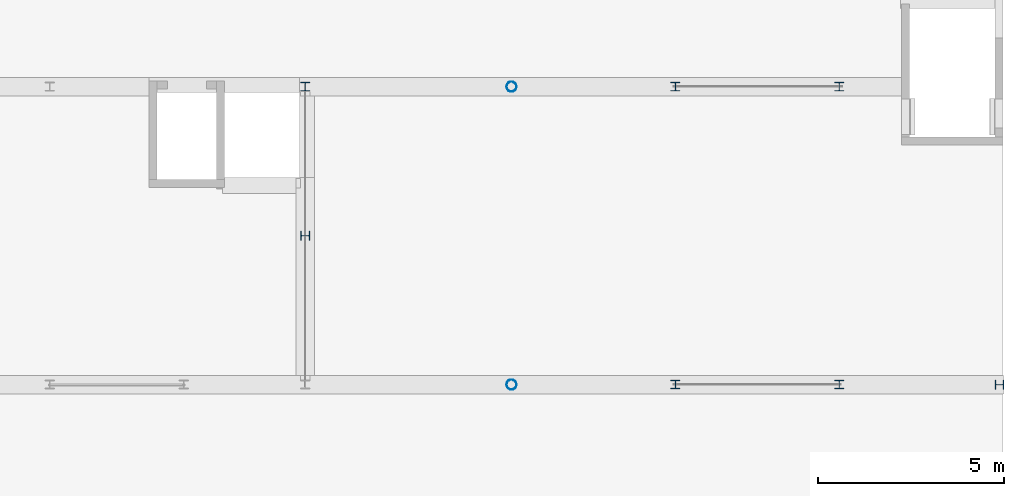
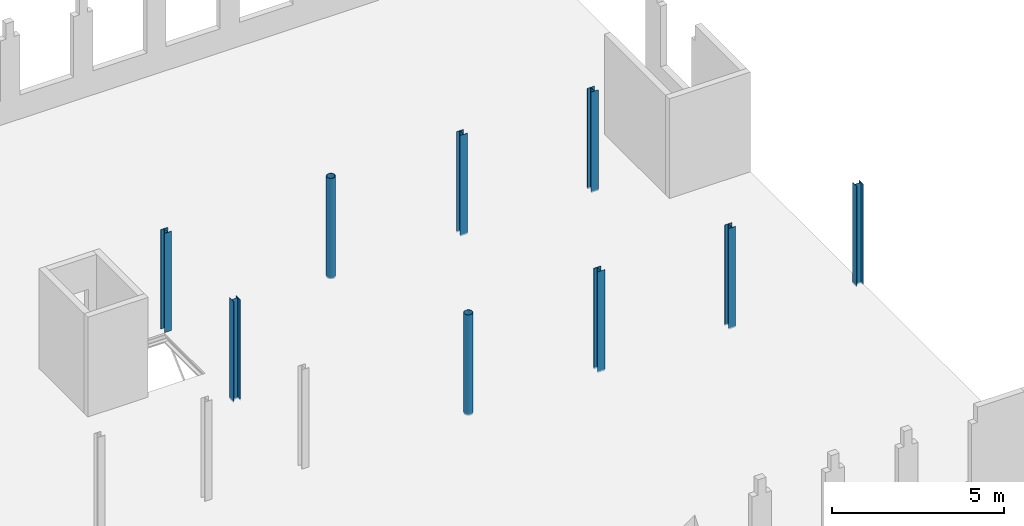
# One storey, part 10 of 25: 9 columns.
"""IFC2X3 building model written with IfcOpenShell, lengths in millimetres."""

from ifc_helpers import new_model, entity, si_unit, converted_unit, derived_unit, direction, frame, frame_2d, origin, origin_2d_with_axis, place, context, subcontext, project, spatial, hollow_circle, i_section, extrude, source, transform, mapped, material, type_object, type_shapes, element, save


model = new_model("IFC2X3")

# Units and contexts
model_context = context("Model", 3, precision=0.01, world=origin(), true_north=direction((6.123031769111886e-17, 1.0)))
body_context = subcontext(model_context, "Body", "Model", "MODEL_VIEW")
ifc_project = project(units=[si_unit("LENGTHUNIT", "METRE", prefix="MILLI"), si_unit("AREAUNIT", "SQUARE_METRE"), si_unit("VOLUMEUNIT", "CUBIC_METRE"), derived_unit("MASSDENSITYUNIT", [(si_unit("MASSUNIT", "GRAM", prefix="KILO"), 1), (si_unit("LENGTHUNIT", "METRE"), -3)]), si_unit("MASSUNIT", "GRAM", prefix="KILO"), converted_unit("PLANEANGLEUNIT", "DEGREE", entity("IfcPlaneAngleMeasure", 0.017453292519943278), si_unit("PLANEANGLEUNIT", "RADIAN"), dimensions=[0, 0, 0, 0, 0, 0, 0])], contexts=[model_context])

# Site, building, storey
site_placement = place(None, origin())
site = spatial("IfcSite", under=ifc_project, at=site_placement, Name="Default", CompositionType="ELEMENT")
building_placement = place(site_placement, origin())
building = spatial("IfcBuilding", under=site, at=building_placement, Name="AT constructie", CompositionType="ELEMENT")
storey_placement = place(building_placement, frame((0.0, 0.0, 3864.0)))
storey = spatial("IfcBuildingStorey", under=building, at=storey_placement, Name="01 eerste verdieping", CompositionType="ELEMENT", Elevation=3864.0)

# Columns
ifc_material = material(Name="h2_staal_S355")
column_type_1 = type_object("IfcColumnType", Name="kolom_gen_HEA240", PredefinedType="COLUMN", material=ifc_material)
shared_shape_1 = source(origin(), body_context, "Body", "SweptSolid", [
    extrude(i_section(OverallWidth=240.00000000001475, OverallDepth=229.99999999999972, WebThickness=7.499999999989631, FlangeThickness=12.000000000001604, FilletRadius=21.0, at=frame_2d((1.7323031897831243e-11, 8.661515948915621e-12), x_axis=(1.0, 0.0))), frame((103746.87463111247, 31271.043508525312, 3764.0)), (0.0, 0.0, 1.0), 3578.999999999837),
])
type_shapes(column_type_1, [shared_shape_1])
column_1_placement = place(storey_placement, frame((0.0, 0.0, -3864.0)))
element("IfcColumn", 1, at=column_1_placement, inside=storey, type_object=column_type_1, material=ifc_material, Name="NLRS_28_SC_TLB_kolom HEA_gen_AT:kolom_gen_HEA240", ObjectType="NLRS_28_SC_TLB_kolom HEA_gen_AT:kolom_gen_HEA240", context=body_context, shape_type="MappedRepresentation", body=[
    mapped(shared_shape_1, transform((0.0, 0.0, 0.0), scale=1.0)),
])
column_type_2 = type_object("IfcColumnType", Name="kolom_gen_HEA240", PredefinedType="COLUMN", material=ifc_material)
shared_shape_2 = source(origin(), body_context, "Body", "SweptSolid", [
    extrude(i_section(OverallWidth=240.00000000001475, OverallDepth=229.9999999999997, WebThickness=7.499999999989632, FlangeThickness=12.000000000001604, FilletRadius=21.0, at=frame_2d((3.4653169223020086e-11, -4.334310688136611e-12), x_axis=(1.0, 0.0))), frame((99346.87463111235, 31271.043508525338, 3764.0)), (0.0, 0.0, 1.0), 3578.999999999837),
])
type_shapes(column_type_2, [shared_shape_2])
column_2_placement = place(storey_placement, frame((0.0, 0.0, -3864.0)))
element("IfcColumn", 2, at=column_2_placement, inside=storey, type_object=column_type_2, material=ifc_material, Name="NLRS_28_SC_TLB_kolom HEA_gen_AT:kolom_gen_HEA240", ObjectType="NLRS_28_SC_TLB_kolom HEA_gen_AT:kolom_gen_HEA240", context=body_context, shape_type="MappedRepresentation", body=[
    mapped(shared_shape_2, transform((0.0, 0.0, 0.0), scale=1.0)),
])
column_type_3 = type_object("IfcColumnType", Name="kolom_gen_ø273x8", PredefinedType="COLUMN", material=ifc_material)
shared_shape_3 = source(origin(), body_context, "Body", "SweptSolid", [
    extrude(hollow_circle(Radius=136.5, WallThickness=8.0, at=origin_2d_with_axis()), frame((94946.87463111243, 31271.04350852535, 3764.0), z_axis=(0.0, 0.0, 1.0), x_axis=(-1.0, 0.0, 0.0)), (0.0, 0.0, 1.0), 3578.999999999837),
])
type_shapes(column_type_3, [shared_shape_3])
column_3_placement = place(storey_placement, frame((0.0, 0.0, -3864.0)))
element("IfcColumn", 3, at=column_3_placement, inside=storey, type_object=column_type_3, material=ifc_material, Name="NLRS_28_SC_TLB_kolom buis_gen_AT:kolom_gen_ø273x8", ObjectType="NLRS_28_SC_TLB_kolom buis_gen_AT:kolom_gen_ø273x8", context=body_context, shape_type="MappedRepresentation", body=[
    mapped(shared_shape_3, transform((0.0, 0.0, 0.0), scale=1.0)),
])
column_type_4 = type_object("IfcColumnType", Name="kolom_gen_HEA240", PredefinedType="COLUMN", material=ifc_material)
shared_shape_4 = source(origin(), body_context, "Body", "SweptSolid", [
    extrude(i_section(OverallWidth=240.00000000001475, OverallDepth=229.9999999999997, WebThickness=7.499999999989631, FlangeThickness=12.000000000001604, FilletRadius=21.0, at=frame_2d((1.7323031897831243e-11, 4.334310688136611e-12), x_axis=(1.0, 0.0))), frame((103746.87463111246, 23271.043508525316, 3764.0)), (0.0, 0.0, 1.0), 3578.999999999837),
])
type_shapes(column_type_4, [shared_shape_4])
column_4_placement = place(storey_placement, frame((0.0, 0.0, -3864.0)))
element("IfcColumn", 4, at=column_4_placement, inside=storey, type_object=column_type_4, material=ifc_material, Name="NLRS_28_SC_TLB_kolom HEA_gen_AT:kolom_gen_HEA240", ObjectType="NLRS_28_SC_TLB_kolom HEA_gen_AT:kolom_gen_HEA240", context=body_context, shape_type="MappedRepresentation", body=[
    mapped(shared_shape_4, transform((0.0, 0.0, 0.0), scale=1.0)),
])
column_type_5 = type_object("IfcColumnType", Name="kolom_gen_HEA240", PredefinedType="COLUMN", material=ifc_material)
shared_shape_5 = source(origin(), body_context, "Body", "SweptSolid", [
    extrude(i_section(OverallWidth=240.00000000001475, OverallDepth=229.9999999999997, WebThickness=7.499999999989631, FlangeThickness=12.000000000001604, FilletRadius=21.0, at=frame_2d((1.7323031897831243e-11, 0.0), x_axis=(1.0, 0.0))), frame((99346.87463111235, 23271.043508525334, 3764.0)), (0.0, 0.0, 1.0), 3578.999999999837),
])
type_shapes(column_type_5, [shared_shape_5])
column_5_placement = place(storey_placement, frame((0.0, 0.0, -3864.0)))
element("IfcColumn", 5, at=column_5_placement, inside=storey, type_object=column_type_5, material=ifc_material, Name="NLRS_28_SC_TLB_kolom HEA_gen_AT:kolom_gen_HEA240", ObjectType="NLRS_28_SC_TLB_kolom HEA_gen_AT:kolom_gen_HEA240", context=body_context, shape_type="MappedRepresentation", body=[
    mapped(shared_shape_5, transform((0.0, 0.0, 0.0), scale=1.0)),
])
column_type_6 = type_object("IfcColumnType", Name="kolom_gen_ø273x8", PredefinedType="COLUMN", material=ifc_material)
shared_shape_6 = source(origin(), body_context, "Body", "SweptSolid", [
    extrude(hollow_circle(Radius=136.5, WallThickness=8.0, at=origin_2d_with_axis()), frame((94946.87463111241, 23271.04350852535, 3764.0), z_axis=(0.0, 0.0, 1.0), x_axis=(-1.0, 0.0, 0.0)), (0.0, 0.0, 1.0), 3578.999999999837),
])
type_shapes(column_type_6, [shared_shape_6])
column_6_placement = place(storey_placement, frame((0.0, 0.0, -3864.0)))
element("IfcColumn", 6, at=column_6_placement, inside=storey, type_object=column_type_6, material=ifc_material, Name="NLRS_28_SC_TLB_kolom buis_gen_AT:kolom_gen_ø273x8", ObjectType="NLRS_28_SC_TLB_kolom buis_gen_AT:kolom_gen_ø273x8", context=body_context, shape_type="MappedRepresentation", body=[
    mapped(shared_shape_6, transform((0.0, 0.0, 0.0), scale=1.0)),
])
column_type_7 = type_object("IfcColumnType", Name="kolom_gen_HEA240", PredefinedType="COLUMN", material=ifc_material)
shared_shape_7 = source(origin(), body_context, "Body", "SweptSolid", [
    extrude(i_section(OverallWidth=239.9999999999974, OverallDepth=229.99999999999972, WebThickness=7.499999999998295, FlangeThickness=11.999999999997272, FilletRadius=21.0, at=frame_2d((0.0, -8.661515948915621e-12), x_axis=(1.0, 0.0))), frame((108043.87463111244, 23271.0435085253, 3764.0), z_axis=(0.0, 0.0, 1.0), x_axis=(0.0, 1.0, 0.0)), (0.0, 0.0, 1.0), 3578.999999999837),
])
type_shapes(column_type_7, [shared_shape_7])
column_7_placement = place(storey_placement, frame((0.0, 0.0, -3864.0)))
element("IfcColumn", 7, at=column_7_placement, inside=storey, type_object=column_type_7, material=ifc_material, Name="NLRS_28_SC_TLB_kolom HEA_gen_AT:kolom_gen_HEA240", ObjectType="NLRS_28_SC_TLB_kolom HEA_gen_AT:kolom_gen_HEA240", context=body_context, shape_type="MappedRepresentation", body=[
    mapped(shared_shape_7, transform((0.0, 0.0, 0.0), scale=1.0)),
])
column_type_8 = type_object("IfcColumnType", Name="kolom_gen_HEA240", PredefinedType="COLUMN", material=ifc_material)
shared_shape_8 = source(origin(), body_context, "Body", "SweptSolid", [
    extrude(i_section(OverallWidth=240.00000000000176, OverallDepth=229.9999999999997, WebThickness=7.500000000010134, FlangeThickness=12.000000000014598, FilletRadius=21.0, at=frame_2d((-4.32720526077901e-12, 1.7323031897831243e-11), x_axis=(1.0, 0.0))), frame((89407.37463111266, 27271.04350852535, 3764.0), z_axis=(0.0, 0.0, 1.0), x_axis=(0.0, 1.0, 0.0)), (0.0, 0.0, 1.0), 3578.999999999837),
])
type_shapes(column_type_8, [shared_shape_8])
column_8_placement = place(storey_placement, frame((0.0, 0.0, -3864.0)))
element("IfcColumn", 8, at=column_8_placement, inside=storey, type_object=column_type_8, material=ifc_material, Name="NLRS_28_SC_TLB_kolom HEA_gen_AT:kolom_gen_HEA240", ObjectType="NLRS_28_SC_TLB_kolom HEA_gen_AT:kolom_gen_HEA240", context=body_context, shape_type="MappedRepresentation", body=[
    mapped(shared_shape_8, transform((0.0, 0.0, 0.0), scale=1.0)),
])
column_type_9 = type_object("IfcColumnType", Name="kolom_gen_HEA240", PredefinedType="COLUMN", material=ifc_material)
shared_shape_9 = source(origin(), body_context, "Body", "SweptSolid", [
    extrude(i_section(OverallWidth=240.00000000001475, OverallDepth=229.9999999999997, WebThickness=7.499999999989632, FlangeThickness=12.000000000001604, FilletRadius=21.0, at=frame_2d((0.0, -4.334310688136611e-12), x_axis=(1.0, 0.0))), frame((89407.37463111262, 31271.043508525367, 3814.0)), (0.0, 0.0, 1.0), 3529.0),
])
type_shapes(column_type_9, [shared_shape_9])
column_9_placement = place(storey_placement, frame((0.0, 0.0, -3864.0)))
element("IfcColumn", 9, at=column_9_placement, inside=storey, type_object=column_type_9, material=ifc_material, Name="NLRS_28_SC_TLB_kolom HEA_gen_AT:kolom_gen_HEA240", ObjectType="NLRS_28_SC_TLB_kolom HEA_gen_AT:kolom_gen_HEA240", context=body_context, shape_type="MappedRepresentation", body=[
    mapped(shared_shape_9, transform((0.0, 0.0, 0.0), scale=1.0)),
])

save(model, "model.ifc")
